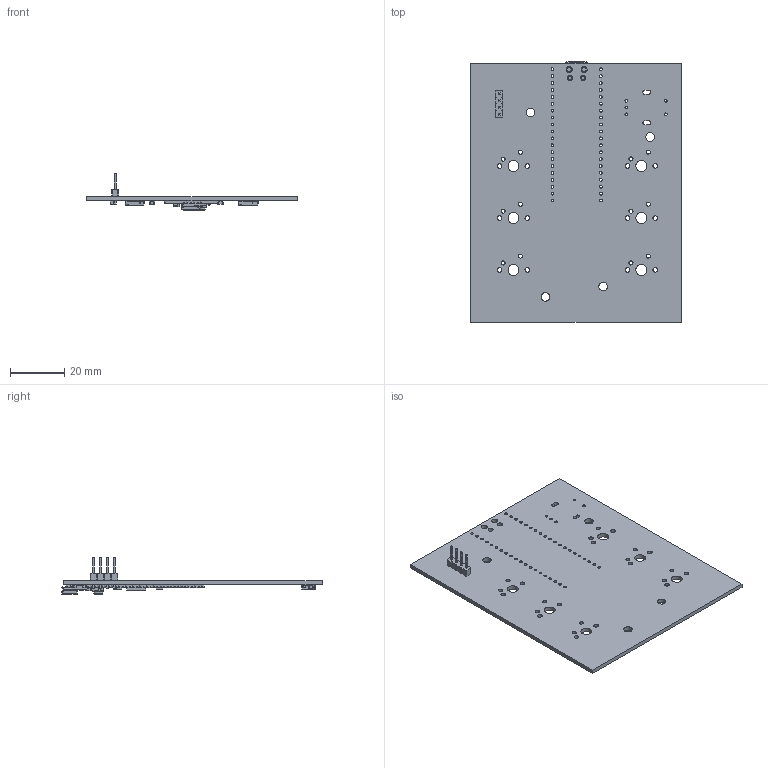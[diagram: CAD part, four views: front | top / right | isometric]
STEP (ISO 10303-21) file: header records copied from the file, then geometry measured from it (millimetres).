
FILE_DESCRIPTION(('KiCad electronic assembly'),'2;1');
FILE_NAME('V1 of macropad.step','2026-04-14T08:58:02',('Pcbnew'),( 'Kicad'),'Open CASCADE STEP processor 7.9','KiCad to STEP converter' ,'Unknown');
FILE_SCHEMA(('AUTOMOTIVE_DESIGN { 1 0 10303 214 1 1 1 1 }'));
Length unit declared in the file: millimetre
Products named in the file (7): V1 of macropad 1; PinHeader_1x04_P2.54mm_Vertical; LED_WS2812B_PLCC4_5.0x5.0mm_P3.2mm; RaspberryPi_Pico; RaspberryPi_Pico_Module_KiCad; C_0805_2012Metric; V1 of macropad_PCB
Assembly tree (12 placements, depth 3):
  V1 of macropad 1
    PinHeader_1x04_P2.54mm_Vertical
    LED_WS2812B_PLCC4_5.0x5.0mm_P3.2mm  x4
    RaspberryPi_Pico
      RaspberryPi_Pico_Module_KiCad
    C_0805_2012Metric  x4
    V1 of macropad_PCB
Bounding box: 77.5 x 95.55 x 13.92 mm (x, y, z)
Volume: 12160.8 mm3; surface area: 18724.5 mm2
Topology: 11 solids, 11 shells, 1058 faces, 3052 edges, 2050 vertices
Faces by surface type: plane 703, cylinder 349, cone 4, torus 2
Full cylindrical faces by diameter (mm): 1 x92, 1.5 x12, 1.7 x12, 1.85 x2, 2.1 x4, 2.2 x2, 3.2 x4, 3.333 x4, 4 x6
Entity records: 30988 total; most frequent: CARTESIAN_POINT 4526, ORIENTED_EDGE 4466, DIRECTION 4435, EDGE_CURVE 2233, LINE 1597, VECTOR 1597, VERTEX_POINT 1510, AXIS2_PLACEMENT_3D 1419
